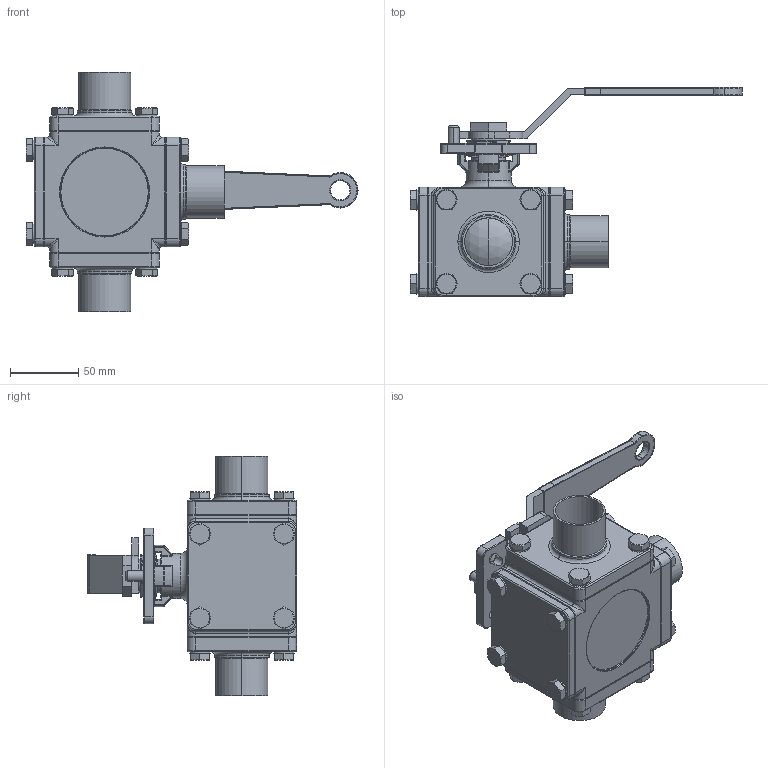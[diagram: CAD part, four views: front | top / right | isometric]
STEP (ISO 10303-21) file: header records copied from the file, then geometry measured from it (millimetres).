
FILE_DESCRIPTION (( 'STEP AP203' ), '1' );
FILE_NAME ('E93WWW-61.5.STEP', '2019-07-02T02:21:29', ( '' ), ( '' ), 'SwSTEP 2.0', 'SolidWorks 2014', '' );
FILE_SCHEMA (( 'CONFIG_CONTROL_DESIGN' ));
Length unit declared in the file: millimetre
Products named in the file (24): 3.3WAY-BALL-1.5-L; 22.SEAT-R-1.5; 16.BOLT1.5; 14.HANDLE1.5-2.0; 20.SEAT BACK1.5; E93WWW-61.5; 22.SEAT-L-1.5; 12.3WAY-NUT1.5-2.0; 15.SPRING WASHER1.5; 18.THINNER NUT1.5-2.0; 17.LOCKING TAB1.5-2.0; 6.THRUST WASHER1.5-2.0; 1.3WAY-BODY1.5; 10.BEVEL WASHER1.5-2.0; 4.SEAT1-1.5; 11.STOP PIN1.5-2.0; 2.3WAY-CAP-W-1.5; 19.3WAY-CAP1.5; 8.STEM PACKING1.5-2.0; 13.STEM1.5-2.0; 5.GASKET1.5; 9.RING1.5-2.0; 21.PLAIN WASHER1.5-2.0; 7.O-RING1.5-2.0
Assembly tree (58 placements, depth 2):
  E93WWW-61.5
    1.3WAY-BODY1.5
    3.3WAY-BALL-1.5-L
    13.STEM1.5-2.0
    6.THRUST WASHER1.5-2.0
    7.O-RING1.5-2.0
    8.STEM PACKING1.5-2.0
    9.RING1.5-2.0
    10.BEVEL WASHER1.5-2.0  x2
    18.THINNER NUT1.5-2.0
    17.LOCKING TAB1.5-2.0
    22.SEAT-L-1.5
    22.SEAT-R-1.5
    20.SEAT BACK1.5
    4.SEAT1-1.5  x2
    5.GASKET1.5  x2
    19.3WAY-CAP1.5
    15.SPRING WASHER1.5  x16
    16.BOLT1.5  x16
    21.PLAIN WASHER1.5-2.0
    14.HANDLE1.5-2.0
    12.3WAY-NUT1.5-2.0
    11.STOP PIN1.5-2.0
    2.3WAY-CAP-W-1.5  x3
Bounding box: 243 x 153.1 x 175 mm (x, y, z)
Volume: 862924.6 mm3; surface area: 293494.5 mm2
Topology: 59 solids, 59 shells, 1475 faces, 3320 edges, 1956 vertices
Faces by surface type: cylinder 558, plane 395, cone 234, torus 191, sphere 59, bspline 38
Entity records: 33015 total; most frequent: CARTESIAN_POINT 7098, DIRECTION 5223, ORIENTED_EDGE 4400, AXIS2_PLACEMENT_3D 2215, EDGE_CURVE 2200, VERTEX_POINT 1302, CIRCLE 1224, EDGE_LOOP 1074
